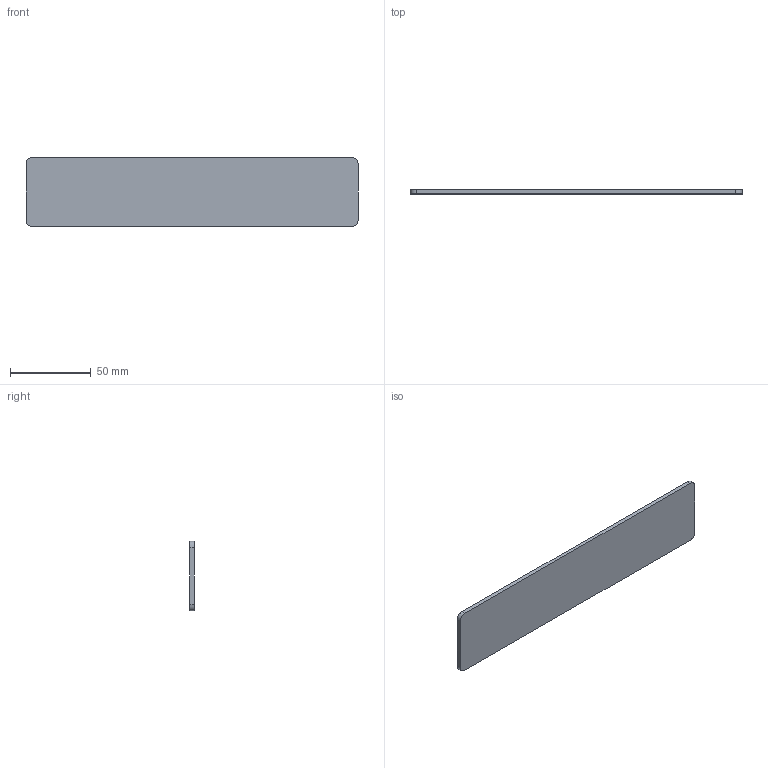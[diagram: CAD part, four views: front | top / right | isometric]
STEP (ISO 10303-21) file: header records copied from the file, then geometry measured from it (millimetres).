
FILE_DESCRIPTION(('Open CASCADE Model'),'2;1');
FILE_NAME('Open CASCADE Shape Model','2026-10-17T16:45:04',('Author'),( 'Open CASCADE'),'Open CASCADE STEP processor 8.0','build123d', 'Unknown');
FILE_SCHEMA(('AUTOMOTIVE_DESIGN { 1 0 10303 214 1 1 1 1 }'));
Length unit declared in the file: millimetre
Products named in the file (2): =>[0:1:1:2]; COMPOUND
Assembly tree (1 placements, depth 2):
  =>[0:1:1:2]
    COMPOUND
Bounding box: 206 x 2.5 x 43.2 mm (x, y, z)
Volume: 22213.7 mm3; surface area: 18999.8 mm2
Topology: 1 solids, 1 shells, 10 faces, 24 edges, 16 vertices
Faces by surface type: plane 6, cylinder 4
Entity records: 648 total; most frequent: CARTESIAN_POINT 124, DIRECTION 100, LINE 56, VECTOR 56, ORIENTED_EDGE 48, PCURVE 48, DEFINITIONAL_REPRESENTATION 48, EDGE_CURVE 24
